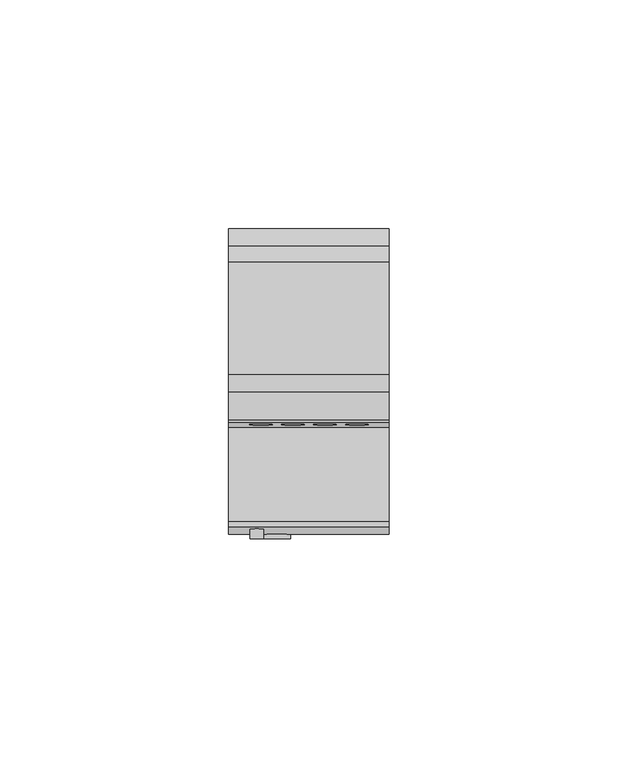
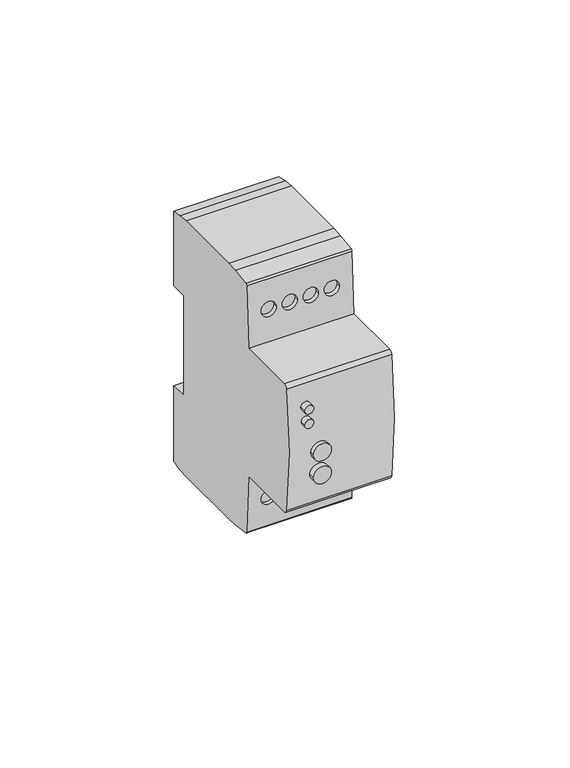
"""IFC4 building model written with IfcOpenShell, lengths in millimetres: proxy geometry, TDM_ОГРАНИЧИТЕЛЬ МОЩНОСТИ СЕРИИ ОМ-3 : Диапазон 0.5-5кВА."""

from ifc_helpers import new_model, si_unit, point, frame, frame_2d, origin, place, context, project, spatial, polyline, circle_curve, ellipse_curve, trimmed, segment, composite_curve, outline, extrude, source, transform, mapped, element, save
from ifc_brep_helpers import plane_surface, cylinder_surface, revolved_surface, advanced_brep


def electrical_equipment_f1d633d0(model_context):
    return source(origin(), model_context, "Body", "SolidModel", [
        extrude(outline(composite_curve([segment(polyline([(-43.9336155, -5.918772), (-47.75, -5.918772)]), True, "CONTINUOUS"), segment(trimmed(circle_curve(frame_2d((-47.75, -3.918772)), 2.0), [point((-47.75, -5.918772))], [point((-49.75, -3.918772))], False, "CARTESIAN"), True, "CONTINUOUS"), segment(polyline([(-49.75, -3.918772), (-49.75, 3.918772)]), True, "CONTINUOUS"), segment(trimmed(circle_curve(frame_2d((-47.75, 3.918772)), 2.0), [point((-49.75, 3.918772))], [point((-47.75, 5.918772))], False, "CARTESIAN"), True, "CONTINUOUS"), segment(polyline([(-47.75, 5.918772), (-43.9336155, 5.918772), (-43.9336155, 4.3399392), (-47.6756564, 4.3399392), (-47.6756564, 1.9201542), (-48.3745354, 0.0), (-47.6756564, -1.9201542), (-47.6756564, -4.3399392), (-43.9336155, -4.3399392), (-43.9336155, -5.918772)]), True, "CONTINUOUS")], self_intersect=False)), frame((0.0, 32.0, 0.0), z_axis=(0.0, 1.0, 0.0), x_axis=(0.0, 0.0, 1.0)), (0.0, 0.0, 1.0), 5.5),
        extrude(outline(composite_curve([segment(trimmed(circle_curve(frame_2d((8.0618959, -11.40625)), 1.5), [point((8.0618959, -12.90625))], [point((8.0618959, -9.90625))], False, "CARTESIAN"), True, "CONTINUOUS"), segment(trimmed(circle_curve(frame_2d((8.0618959, -11.40625)), 1.5), [point((8.0618959, -9.90625))], [point((8.0618959, -12.90625))], False, "CARTESIAN"), True, "CONTINUOUS")], self_intersect=False)), frame((0.0, -30.1722326, 0.0), z_axis=(0.0, 1.0, 0.0), x_axis=(0.0, 0.0, 1.0)), (0.0, 0.0, 1.0), 2.2551984),
        extrude(outline(composite_curve([segment(trimmed(circle_curve(frame_2d((13.0618959, -11.40625)), 1.5), [point((13.0618959, -12.90625))], [point((13.0618959, -9.90625))], False, "CARTESIAN"), True, "CONTINUOUS"), segment(trimmed(circle_curve(frame_2d((13.0618959, -11.40625)), 1.5), [point((13.0618959, -9.90625))], [point((13.0618959, -12.90625))], False, "CARTESIAN"), True, "CONTINUOUS")], self_intersect=False)), frame((0.0, -30.1722326, 0.0), z_axis=(0.0, 1.0, 0.0), x_axis=(0.0, 0.0, 1.0)), (0.0, 0.0, 1.0), 2.2551984),
        extrude(outline(composite_curve([segment(trimmed(circle_curve(frame_2d((-3.3756041, -7.03125)), 3.0), [point((-3.3756041, -10.03125))], [point((-3.3756041, -4.03125))], False, "CARTESIAN"), True, "CONTINUOUS"), segment(trimmed(circle_curve(frame_2d((-3.3756041, -7.03125)), 3.0), [point((-3.3756041, -4.03125))], [point((-3.3756041, -10.03125))], False, "CARTESIAN"), True, "CONTINUOUS")], self_intersect=False)), frame((0.0, -30.1722326, 0.0), z_axis=(0.0, 1.0, 0.0), x_axis=(0.0, 0.0, 1.0)), (0.0, 0.0, 1.0), 1.6517247),
        extrude(outline(composite_curve([segment(trimmed(circle_curve(frame_2d((-11.3756041, -7.03125)), 3.0), [point((-11.3756041, -10.03125))], [point((-11.3756041, -4.03125))], False, "CARTESIAN"), True, "CONTINUOUS"), segment(trimmed(circle_curve(frame_2d((-11.3756041, -7.03125)), 3.0), [point((-11.3756041, -4.03125))], [point((-11.3756041, -10.03125))], False, "CARTESIAN"), True, "CONTINUOUS")], self_intersect=False)), frame((0.0, -30.1722326, 0.0), z_axis=(0.0, 1.0, 0.0), x_axis=(0.0, 0.0, 1.0)), (0.0, 0.0, 1.0), 2.2551984),
        extrude(outline(polyline([(17.0, 16.6821204), (17.0, -3.4861143), (-17.0, -3.4861143), (-17.0, 16.6821204), (17.0, 16.6821204)])), frame((0.0, 0.0, -42.1875), z_axis=(0.0, 0.0, 1.0), x_axis=(1.0, 0.0, 0.0)), (0.0, 0.0, 1.0), 84.0626081),
        advanced_brep(
        [(17.5, 31.7632568, 17.7057143), (17.5, 37.5, 17.7057143), (17.5, 37.5, 43.9336155), (17.5, 33.7933685, 44.6604695), (17.5, 30.2974842, 45.0), (17.5, 5.7984694, 45.0), (17.5, 1.9363811, 44.7297848), (17.5, -4.1393405, 43.8754137), (17.5, -4.6720937, 43.29397), (17.5, -5.7880634, 22.0), (17.5, -26.3777313, 22.0), (17.5, -27.5, 20.8777313), (17.5, -27.5, -21.8875602), (17.5, -26.3875602, -23.0), (17.5, -5.7356556, -23.0), (17.5, -4.6720937, -43.29397), (17.5, -4.1393405, -43.8754137), (17.5, 1.9363811, -44.7297848), (17.5, 5.7984694, -45.0), (17.5, 30.2974842, -45.0), (17.5, 33.7933685, -44.6604695), (17.5, 37.5, -43.9336155), (17.5, 37.5, -17.2942857), (17.5, 31.7632568, -17.2942857), (-17.5, 31.7632568, 17.7057143), (-17.5, 31.7632568, -17.2942857), (-17.5, 37.5, -17.2942857), (-17.5, 37.5, -43.9336155), (-17.5, 33.7933685, -44.6604695), (-17.5, 30.2974842, -45.0), (-17.5, 5.7984694, -45.0), (-17.5, 1.9363811, -44.7297848), (-17.5, -4.1393405, -43.8754137), (-17.5, -4.6720937, -43.29397), (-17.5, -5.7356556, -23.0), (-17.5, -26.3875602, -23.0), (-17.5, -27.5, -21.8875602), (-17.5, -27.5, 20.8777313), (-17.5, -26.3777313, 22.0), (-17.5, -5.7880634, 22.0), (-17.5, -4.6720937, 43.29397), (-17.5, -4.1393405, 43.8754137), (-17.5, 1.9363811, 44.7297848), (-17.5, 5.7984694, 45.0), (-17.5, 30.2974842, 45.0), (-17.5, 33.7933685, 44.6604695), (-17.5, 37.5, 43.9336155), (-17.5, 37.5, 17.7057143), (-1.0, -5.208152, -33.0653679), (-6.0, -5.208152, -33.0653679), (-8.0, -5.208152, -33.0653679), (-13.0, -5.208152, -33.0653679), (1.0, -5.208152, -33.0653679), (6.0, -5.208152, -33.0653679), (8.0, -5.208152, -33.0653679), (13.0, -5.208152, -33.0653679), (-6.0, -1.0093135, -33.0653679), (-1.0, -1.0093135, -33.0653679), (-13.0, -1.0093135, -33.0653679), (-8.0, -1.0093135, -33.0653679), (6.0, -1.0093135, -33.0653679), (1.0, -1.0093135, -33.0653679), (13.0, -1.0093135, -33.0653679), (8.0, -1.0093135, -33.0653679), (-6.0, -1.0093135, 33.0653679), (-1.0, -1.0093135, 33.0653679), (-13.0, -1.0093135, 33.0653679), (-8.0, -1.0093135, 33.0653679), (6.0, -1.0093135, 33.0653679), (1.0, -1.0093135, 33.0653679), (13.0, -1.0093135, 33.0653679), (8.0, -1.0093135, 33.0653679), (-1.0, -5.208152, 33.0653679), (-6.0, -5.208152, 33.0653679), (-8.0, -5.208152, 33.0653679), (-13.0, -5.208152, 33.0653679), (1.0, -5.208152, 33.0653679), (6.0, -5.208152, 33.0653679), (8.0, -5.208152, 33.0653679), (13.0, -5.208152, 33.0653679)],
        [
            (0, 1),
            (1, 2),
            (2, 3),
            (3, 4, circle_curve(frame((17.5, 30.2974842, 26.8330171), z_axis=(1.0, 0.0, 0.0), x_axis=(0.0, -1.0, 0.0)), 18.1669829)),
            (4, 5),
            (5, 6, circle_curve(frame((17.5, 5.7984694, 17.2651702), z_axis=(1.0, 0.0, 0.0), x_axis=(0.0, -1.0, 0.0)), 27.7348298)),
            (6, 7),
            (7, 8, circle_curve(frame((17.5, -4.0530152, 43.2615255), z_axis=(1.0, 0.0, 0.0), x_axis=(0.0, -1.0, 0.0)), 0.6199281)),
            (8, 9),
            (9, 10),
            (10, 11, circle_curve(frame((17.5, -26.3777313, 20.8777313), z_axis=(1.0, 0.0, 0.0), x_axis=(0.0, -1.0, 0.0)), 1.1222687)),
            (11, 12, circle_curve(frame((17.5, 113.210166, -0.5049144), z_axis=(1.0, 0.0, 0.0), x_axis=(0.0, -1.0, 0.0)), 142.3255717)),
            (12, 13, circle_curve(frame((17.5, -26.3875602, -21.8875602), z_axis=(1.0, 0.0, 0.0), x_axis=(0.0, -1.0, 0.0)), 1.1124398)),
            (13, 14),
            (14, 15),
            (15, 16, circle_curve(frame((17.5, -4.0530152, -43.2615255), z_axis=(1.0, 0.0, 0.0), x_axis=(0.0, -1.0, 0.0)), 0.6199281)),
            (16, 17),
            (17, 18, circle_curve(frame((17.5, 5.7984694, -17.2651702), z_axis=(1.0, 0.0, 0.0), x_axis=(0.0, -1.0, 0.0)), 27.7348298)),
            (18, 19),
            (19, 20, circle_curve(frame((17.5, 30.2974842, -26.8330171), z_axis=(1.0, 0.0, 0.0), x_axis=(0.0, -1.0, 0.0)), 18.1669829)),
            (20, 21),
            (21, 22),
            (22, 23),
            (23, 0),
            (24, 25),
            (25, 26),
            (26, 27),
            (27, 28),
            (28, 29, circle_curve(frame((-17.5, 30.2974842, -26.8330171), z_axis=(-1.0, 0.0, 0.0), x_axis=(0.0, -1.0, 0.0)), 18.1669829)),
            (29, 30),
            (30, 31, circle_curve(frame((-17.5, 5.7984694, -17.2651702), z_axis=(-1.0, 0.0, 0.0), x_axis=(0.0, -1.0, 0.0)), 27.7348298)),
            (31, 32),
            (32, 33, circle_curve(frame((-17.5, -4.0530152, -43.2615255), z_axis=(-1.0, 0.0, 0.0), x_axis=(0.0, -1.0, 0.0)), 0.6199281)),
            (33, 34),
            (34, 35),
            (35, 36, circle_curve(frame((-17.5, -26.3875602, -21.8875602), z_axis=(-1.0, 0.0, 0.0), x_axis=(0.0, -1.0, 0.0)), 1.1124398)),
            (36, 37, circle_curve(frame((-17.5, 113.210166, -0.5049144), z_axis=(-1.0, 0.0, 0.0), x_axis=(0.0, -1.0, 0.0)), 142.3255717)),
            (37, 38, circle_curve(frame((-17.5, -26.3777313, 20.8777313), z_axis=(-1.0, 0.0, 0.0), x_axis=(0.0, -1.0, 0.0)), 1.1222687)),
            (38, 39),
            (39, 40),
            (40, 41, circle_curve(frame((-17.5, -4.0530152, 43.2615255), z_axis=(-1.0, 0.0, 0.0), x_axis=(0.0, -1.0, 0.0)), 0.6199281)),
            (41, 42),
            (42, 43, circle_curve(frame((-17.5, 5.7984694, 17.2651702), z_axis=(-1.0, 0.0, 0.0), x_axis=(0.0, -1.0, 0.0)), 27.7348298)),
            (43, 44),
            (44, 45, circle_curve(frame((-17.5, 30.2974842, 26.8330171), z_axis=(-1.0, 0.0, 0.0), x_axis=(0.0, -1.0, 0.0)), 18.1669829)),
            (45, 46),
            (46, 47),
            (47, 24),
            (0, 24),
            (47, 1),
            (46, 2),
            (10, 38),
            (37, 11),
            (13, 35),
            (34, 14),
            (33, 15),
            (48, 49, ellipse_curve(frame((-3.5, -5.208152, -33.0653679), z_axis=(0.0, 0.9986295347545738, 0.052335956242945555), x_axis=(0.0, -0.05233595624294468, 0.9986295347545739)), 2.5034309, 2.5)),
            (49, 48, ellipse_curve(frame((-3.5, -5.208152, -33.0653679), z_axis=(0.0, 0.9986295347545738, 0.052335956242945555), x_axis=(0.0, -0.05233595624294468, 0.9986295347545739)), 2.5034309, 2.5)),
            (50, 51, ellipse_curve(frame((-10.5, -5.208152, -33.0653679), z_axis=(0.0, 0.9986295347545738, 0.052335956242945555), x_axis=(0.0, -0.05233595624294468, 0.9986295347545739)), 2.5034309, 2.5)),
            (51, 50, ellipse_curve(frame((-10.5, -5.208152, -33.0653679), z_axis=(0.0, 0.9986295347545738, 0.052335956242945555), x_axis=(0.0, -0.05233595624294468, 0.9986295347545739)), 2.5034309, 2.5)),
            (52, 53, ellipse_curve(frame((3.5, -5.208152, -33.0653679), z_axis=(0.0, 0.9986295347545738, 0.052335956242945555), x_axis=(0.0, -0.05233595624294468, 0.9986295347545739)), 2.5034309, 2.5)),
            (53, 52, ellipse_curve(frame((3.5, -5.208152, -33.0653679), z_axis=(0.0, 0.9986295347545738, 0.052335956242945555), x_axis=(0.0, -0.05233595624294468, 0.9986295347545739)), 2.5034309, 2.5)),
            (54, 55, ellipse_curve(frame((10.5, -5.208152, -33.0653679), z_axis=(0.0, 0.9986295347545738, 0.052335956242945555), x_axis=(0.0, -0.05233595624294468, 0.9986295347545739)), 2.5034309, 2.5)),
            (55, 54, ellipse_curve(frame((10.5, -5.208152, -33.0653679), z_axis=(0.0, 0.9986295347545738, 0.052335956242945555), x_axis=(0.0, -0.05233595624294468, 0.9986295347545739)), 2.5034309, 2.5)),
            (18, 30),
            (29, 19),
            (21, 27),
            (26, 22),
            (25, 23),
            (12, 36),
            (56, 57, circle_curve(frame((-3.5, -1.0093135, -33.0653679), z_axis=(0.0, -1.0, 0.0), x_axis=(1.0, 0.0, 0.0)), 2.5)),
            (57, 56, circle_curve(frame((-3.5, -1.0093135, -33.0653679), z_axis=(0.0, -1.0, 0.0), x_axis=(1.0, 0.0, 0.0)), 2.5)),
            (58, 59, circle_curve(frame((-10.5, -1.0093135, -33.0653679), z_axis=(0.0, -1.0, 0.0), x_axis=(1.0, 0.0, 0.0)), 2.5)),
            (59, 58, circle_curve(frame((-10.5, -1.0093135, -33.0653679), z_axis=(0.0, -1.0, 0.0), x_axis=(1.0, 0.0, 0.0)), 2.5)),
            (60, 61, circle_curve(frame((3.5, -1.0093135, -33.0653679), z_axis=(0.0, -1.0, 0.0), x_axis=(-1.0, 0.0, 0.0)), 2.5)),
            (61, 60, circle_curve(frame((3.5, -1.0093135, -33.0653679), z_axis=(0.0, -1.0, 0.0), x_axis=(-1.0, 0.0, 0.0)), 2.5)),
            (62, 63, circle_curve(frame((10.5, -1.0093135, -33.0653679), z_axis=(0.0, -1.0, 0.0), x_axis=(-1.0, 0.0, 0.0)), 2.5)),
            (63, 62, circle_curve(frame((10.5, -1.0093135, -33.0653679), z_axis=(0.0, -1.0, 0.0), x_axis=(-1.0, 0.0, 0.0)), 2.5)),
            (64, 65, circle_curve(frame((-3.5, -1.0093135, 33.0653679), z_axis=(0.0, -1.0, 0.0), x_axis=(1.0, 0.0, 0.0)), 2.5)),
            (65, 64, circle_curve(frame((-3.5, -1.0093135, 33.0653679), z_axis=(0.0, -1.0, 0.0), x_axis=(1.0, 0.0, 0.0)), 2.5)),
            (66, 67, circle_curve(frame((-10.5, -1.0093135, 33.0653679), z_axis=(0.0, -1.0, 0.0), x_axis=(1.0, 0.0, 0.0)), 2.5)),
            (67, 66, circle_curve(frame((-10.5, -1.0093135, 33.0653679), z_axis=(0.0, -1.0, 0.0), x_axis=(1.0, 0.0, 0.0)), 2.5)),
            (68, 69, circle_curve(frame((3.5, -1.0093135, 33.0653679), z_axis=(0.0, -1.0, 0.0), x_axis=(-1.0, 0.0, 0.0)), 2.5)),
            (69, 68, circle_curve(frame((3.5, -1.0093135, 33.0653679), z_axis=(0.0, -1.0, 0.0), x_axis=(-1.0, 0.0, 0.0)), 2.5)),
            (70, 71, circle_curve(frame((10.5, -1.0093135, 33.0653679), z_axis=(0.0, -1.0, 0.0), x_axis=(-1.0, 0.0, 0.0)), 2.5)),
            (71, 70, circle_curve(frame((10.5, -1.0093135, 33.0653679), z_axis=(0.0, -1.0, 0.0), x_axis=(-1.0, 0.0, 0.0)), 2.5)),
            (32, 16),
            (31, 17),
            (28, 20),
            (45, 3),
            (44, 4),
            (43, 5),
            (42, 6),
            (41, 7),
            (40, 8),
            (39, 9),
            (72, 73, ellipse_curve(frame((-3.5, -5.208152, 33.0653679), z_axis=(0.0, 0.9986295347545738, -0.052335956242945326), x_axis=(0.0, -0.0523359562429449, -0.9986295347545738)), 2.5034309, 2.5)),
            (73, 72, ellipse_curve(frame((-3.5, -5.208152, 33.0653679), z_axis=(0.0, 0.9986295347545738, -0.052335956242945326), x_axis=(0.0, -0.0523359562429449, -0.9986295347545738)), 2.5034309, 2.5)),
            (74, 75, ellipse_curve(frame((-10.5, -5.208152, 33.0653679), z_axis=(0.0, 0.9986295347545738, -0.052335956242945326), x_axis=(0.0, -0.0523359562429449, -0.9986295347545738)), 2.5034309, 2.5)),
            (75, 74, ellipse_curve(frame((-10.5, -5.208152, 33.0653679), z_axis=(0.0, 0.9986295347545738, -0.052335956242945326), x_axis=(0.0, -0.0523359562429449, -0.9986295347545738)), 2.5034309, 2.5)),
            (76, 77, ellipse_curve(frame((3.5, -5.208152, 33.0653679), z_axis=(0.0, 0.9986295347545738, -0.052335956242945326), x_axis=(0.0, -0.0523359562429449, -0.9986295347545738)), 2.5034309, 2.5)),
            (77, 76, ellipse_curve(frame((3.5, -5.208152, 33.0653679), z_axis=(0.0, 0.9986295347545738, -0.052335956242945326), x_axis=(0.0, -0.0523359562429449, -0.9986295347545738)), 2.5034309, 2.5)),
            (78, 79, ellipse_curve(frame((10.5, -5.208152, 33.0653679), z_axis=(0.0, 0.9986295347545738, -0.052335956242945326), x_axis=(0.0, -0.0523359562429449, -0.9986295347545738)), 2.5034309, 2.5)),
            (79, 78, ellipse_curve(frame((10.5, -5.208152, 33.0653679), z_axis=(0.0, 0.9986295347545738, -0.052335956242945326), x_axis=(0.0, -0.0523359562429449, -0.9986295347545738)), 2.5034309, 2.5)),
            (56, 49),
            (48, 57),
            (58, 51),
            (50, 59),
            (60, 53),
            (52, 61),
            (62, 55),
            (54, 63),
            (64, 73),
            (72, 65),
            (66, 75),
            (74, 67),
            (68, 77),
            (76, 69),
            (70, 79),
            (78, 71),
        ],
        [
            plane_surface(frame((17.5, 31.7632568, 17.7057143), z_axis=(1.0, 0.0, 0.0), x_axis=(0.0, 1.0, 0.0))),
            plane_surface(frame((-17.5, 31.7632568, 17.7057143), z_axis=(-1.0, 0.0, 0.0), x_axis=(0.0, -1.0, 0.0))),
            plane_surface(frame((17.5, 31.7632568, 17.7057143), z_axis=(0.0, 0.0, -1.0), x_axis=(-1.0, 0.0, 0.0))),
            plane_surface(frame((17.5, 37.5, 17.7057143), z_axis=(0.0, 1.0, 0.0), x_axis=(-1.0, 0.0, 0.0))),
            cylinder_surface(frame((-17.5, -26.3777313, 20.8777313), z_axis=(1.0, 0.0, 0.0), x_axis=(0.0, -1.0, 0.0)), 1.1222687),
            plane_surface(frame((17.5, -26.3875602, -23.0), z_axis=(0.0, 0.0, -1.0), x_axis=(-1.0, 0.0, 0.0))),
            plane_surface(frame((17.5, -5.7356556, -23.0), z_axis=(0.0, -0.9986295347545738, -0.052335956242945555), x_axis=(-1.0, 0.0, 0.0))),
            plane_surface(frame((17.5, 5.7984694, -45.0), z_axis=(0.0, 0.0, -1.0), x_axis=(-1.0, 0.0, 0.0))),
            plane_surface(frame((17.5, 37.5, -43.9336155), z_axis=(0.0, 1.0, 0.0), x_axis=(-1.0, 0.0, 0.0))),
            plane_surface(frame((17.5, 37.5, -17.2942857), z_axis=(0.0, 0.0, 1.0), x_axis=(-1.0, 0.0, 0.0))),
            plane_surface(frame((17.5, 31.7632568, -17.2942857), z_axis=(0.0, 1.0, 0.0), x_axis=(-1.0, 0.0, 0.0))),
            cylinder_surface(frame((-17.5, -26.3875602, -21.8875602), z_axis=(1.0, 0.0, 0.0), x_axis=(0.0, -1.0, 0.0)), 1.1124398),
            plane_surface(frame((-1.0, -1.0093135, -33.0653679), z_axis=(0.0, -1.0, 0.0), x_axis=(0.0, 0.0, -1.0))),
            cylinder_surface(frame((-17.5, -4.0530152, -43.2615255), z_axis=(1.0, 0.0, 0.0), x_axis=(0.0, -1.0, 0.0)), 0.6199281),
            plane_surface(frame((17.5, -4.1393405, -43.8754137), z_axis=(0.0, -0.1392504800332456, -0.9902571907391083), x_axis=(-1.0, 0.0, 0.0))),
            cylinder_surface(frame((-17.5, 5.7984694, -17.2651702), z_axis=(1.0, 0.0, 0.0), x_axis=(0.0, -1.0, 0.0)), 27.7348298),
            cylinder_surface(frame((-17.5, 30.2974842, -26.8330171), z_axis=(1.0, 0.0, 0.0), x_axis=(0.0, -1.0, 0.0)), 18.1669829),
            plane_surface(frame((17.5, 33.7933685, -44.6604695), z_axis=(0.0, 0.19243065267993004, -0.9813105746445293), x_axis=(-1.0, 0.0, 0.0))),
            plane_surface(frame((17.5, 37.5, 43.9336155), z_axis=(0.0, 0.19243065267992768, 0.9813105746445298), x_axis=(-1.0, 0.0, 0.0))),
            cylinder_surface(frame((-17.5, 30.2974842, 26.8330171), z_axis=(1.0, 0.0, 0.0), x_axis=(0.0, -1.0, 0.0)), 18.1669829),
            plane_surface(frame((17.5, 30.2974842, 45.0), z_axis=(0.0, 0.0, 1.0), x_axis=(-1.0, 0.0, 0.0))),
            cylinder_surface(frame((-17.5, 5.7984694, 17.2651702), z_axis=(1.0, 0.0, 0.0), x_axis=(0.0, -1.0, 0.0)), 27.7348298),
            plane_surface(frame((17.5, 1.9363811, 44.7297848), z_axis=(0.0, -0.13925048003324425, 0.9902571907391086), x_axis=(-1.0, 0.0, 0.0))),
            cylinder_surface(frame((-17.5, -4.0530152, 43.2615255), z_axis=(1.0, 0.0, 0.0), x_axis=(0.0, -1.0, 0.0)), 0.6199281),
            plane_surface(frame((17.5, -4.6720937, 43.29397), z_axis=(0.0, -0.9986295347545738, 0.052335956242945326), x_axis=(-1.0, 0.0, 0.0))),
            plane_surface(frame((17.5, -5.7880634, 22.0), z_axis=(0.0, 0.0, 1.0), x_axis=(-1.0, 0.0, 0.0))),
            cylinder_surface(frame((-17.5, 113.210166, -0.5049144), z_axis=(1.0, 0.0, 0.0), x_axis=(0.0, -1.0, 0.0)), 142.3255717),
            revolved_surface(polyline([(-1.0, -5.339171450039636, -33.0653679), (-1.0, -1.0093135, -33.0653679)]), (-3.5, -1.0093135, -33.0653679), (0.0, -1.0, 0.0)),
            revolved_surface(polyline([(-8.0, -5.339171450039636, -33.0653679), (-8.0, -1.0093135, -33.0653679)]), (-10.5, 0.0, -33.0653679), (0.0, -1.0, 0.0)),
            revolved_surface(polyline([(1.0, -5.339171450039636, -33.0653679), (1.0, -1.0093135, -33.0653679)]), (3.5, 0.0, -33.0653679), (0.0, -1.0, 0.0)),
            revolved_surface(polyline([(8.0, -5.339171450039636, -33.0653679), (8.0, -1.0093135, -33.0653679)]), (10.5, 0.0, -33.0653679), (0.0, -1.0, 0.0)),
            revolved_surface(polyline([(-1.0, -5.339171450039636, 33.0653679), (-1.0, -1.0093135, 33.0653679)]), (-3.5, 0.0, 33.0653679), (0.0, -1.0, 0.0)),
            revolved_surface(polyline([(-8.0, -5.339171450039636, 33.0653679), (-8.0, -1.0093135, 33.0653679)]), (-10.5, 0.0, 33.0653679), (0.0, -1.0, 0.0)),
            revolved_surface(polyline([(1.0, -5.339171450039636, 33.0653679), (1.0, -1.0093135, 33.0653679)]), (3.5, 0.0, 33.0653679), (0.0, -1.0, 0.0)),
            revolved_surface(polyline([(8.0, -5.339171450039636, 33.0653679), (8.0, -1.0093135, 33.0653679)]), (10.5, 0.0, 33.0653679), (0.0, -1.0, 0.0)),
        ],
        [
            (0, [[1, 2, 3, 4, 5, 6, 7, 8, 9, 10, 11, 12, 13, 14, 15, 16, 17, 18, 19, 20, 21, 22, 23, 24]]),
            (1, [[25, 26, 27, 28, 29, 30, 31, 32, 33, 34, 35, 36, 37, 38, 39, 40, 41, 42, 43, 44, 45, 46, 47, 48]]),
            (2, [[-1, 49, -48, 50]]),
            (3, [[-2, -50, -47, 51]]),
            (4, [[-11, 52, -38, 53]]),
            (5, [[-14, 54, -35, 55]]),
            (6, [[-15, -55, -34, 56], [57, 58], [59, 60], [61, 62], [63, 64]]),
            (7, [[-19, 65, -30, 66]]),
            (8, [[-22, 67, -27, 68]]),
            (9, [[-23, -68, -26, 69]]),
            (10, [[-24, -69, -25, -49]]),
            (11, [[-13, 70, -36, -54]]),
            (12, [[71, 72]]),
            (12, [[73, 74]]),
            (12, [[75, 76]]),
            (12, [[77, 78]]),
            (12, [[79, 80]]),
            (12, [[81, 82]]),
            (12, [[83, 84]]),
            (12, [[85, 86]]),
            (13, [[-16, -56, -33, 87]]),
            (14, [[-17, -87, -32, 88]]),
            (15, [[-18, -88, -31, -65]]),
            (16, [[-20, -66, -29, 89]]),
            (17, [[-21, -89, -28, -67]]),
            (18, [[-3, -51, -46, 90]]),
            (19, [[-4, -90, -45, 91]]),
            (20, [[-5, -91, -44, 92]]),
            (21, [[-6, -92, -43, 93]]),
            (22, [[-7, -93, -42, 94]]),
            (23, [[-8, -94, -41, 95]]),
            (24, [[-9, -95, -40, 96], [97, 98], [99, 100], [101, 102], [103, 104]]),
            (25, [[-10, -96, -39, -52]]),
            (26, [[-12, -53, -37, -70]]),
            (27, [[-71, 105, -57, 106]]),
            (27, [[-72, -106, -58, -105]]),
            (28, [[-73, 107, -59, 108]]),
            (28, [[-74, -108, -60, -107]]),
            (29, [[-75, 109, -61, 110]]),
            (29, [[-76, -110, -62, -109]]),
            (30, [[-77, 111, -63, 112]]),
            (30, [[-78, -112, -64, -111]]),
            (31, [[-79, 113, -97, 114]]),
            (31, [[-80, -114, -98, -113]]),
            (32, [[-81, 115, -99, 116]]),
            (32, [[-82, -116, -100, -115]]),
            (33, [[-83, 117, -101, 118]]),
            (33, [[-84, -118, -102, -117]]),
            (34, [[-85, 119, -103, 120]]),
            (34, [[-86, -120, -104, -119]]),
        ],
    ),
    ])


if __name__ == "__main__":
    model = new_model("IFC4")
    model_context = context("Model", 3, world=origin())
    ifc_project = project(units=[si_unit("LENGTHUNIT", "METRE", prefix="MILLI")], contexts=[model_context])
    site = spatial("IfcSite", under=ifc_project)
    building = spatial("IfcBuilding", under=site)
    placement = place(None, origin())
    electrical_equipment_shape = electrical_equipment_f1d633d0(model_context)
    element("IfcBuildingElementProxy", 1, Name="TDM_ОГРАНИЧИТЕЛЬ МОЩНОСТИ СЕРИИ ОМ-3 : Диапазон 0.5-5кВА", ObjectType="TDM_ОГРАНИЧИТЕЛЬ МОЩНОСТИ СЕРИИ ОМ-3 : Диапазон 0.5-5кВА", at=placement, inside=building, context=model_context, shape_type="MappedRepresentation", body=[
        mapped(electrical_equipment_shape, transform((0.0, 0.0, 0.0), x_axis=(1.0, 0.0, 0.0), y_axis=(0.0, 1.0, 0.0), z_axis=(0.0, 0.0, 1.0))),
    ])
    save(model, "model.ifc")
